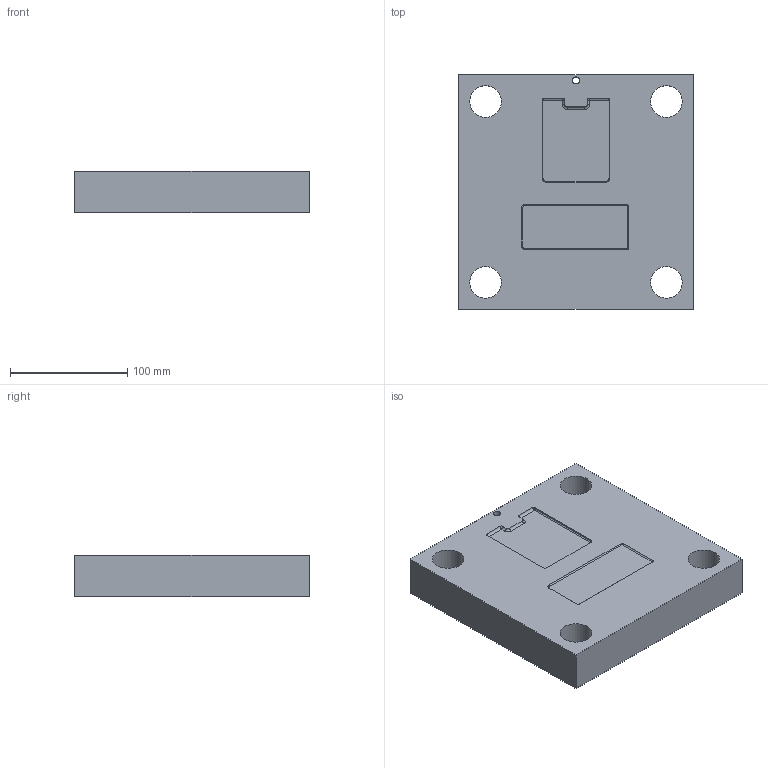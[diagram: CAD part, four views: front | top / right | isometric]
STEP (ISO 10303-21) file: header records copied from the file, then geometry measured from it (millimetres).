
FILE_DESCRIPTION( ( 'Unknown' ), '1' );
FILE_NAME( 'C:/Drawings/CDP/Support Bracket 91 Pitch And Shaft Support/Loose Support and 300 Shaft Support/Tooldrawings/FH Die Plate.stp', 'Unknown', ( 'Unknown' ), ( 'Unknown' ), 'XStep 1.0', 'Unknown', ' ' );
FILE_SCHEMA( ( 'CONFIG_CONTROL_DESIGN' ) );
Length unit declared in the file: millimetre
Products named in the file (1): 1
Bounding box: 200 x 200 x 35.22 mm (x, y, z)
Volume: 1299555.2 mm3; surface area: 121379.8 mm2
Topology: 1 solids, 1 shells, 64 faces, 161 edges, 101 vertices
Faces by surface type: cylinder 31, plane 15, torus 6, cone 6, bspline 4, sphere 2
Full cylindrical faces by diameter (mm): 6 x1, 8.376 x2, 10.106 x4, 27 x4, 32 x4
Entity records: 2017 total; most frequent: CARTESIAN_POINT 538, DIRECTION 323, ORIENTED_EDGE 246, AXIS2_PLACEMENT_3D 139, EDGE_CURVE 123, EDGE_LOOP 101, VERTEX_POINT 94, FACE_OUTER_BOUND 79
